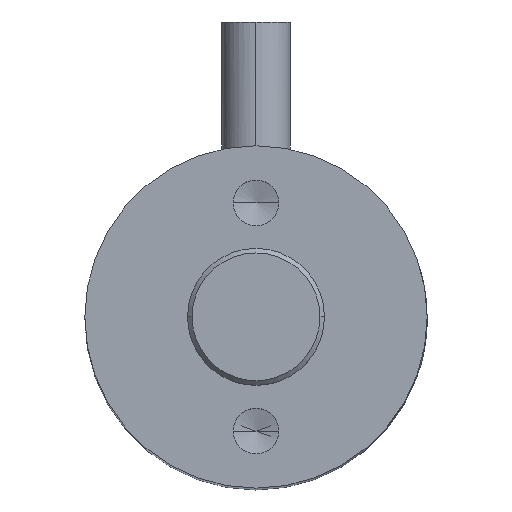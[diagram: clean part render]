
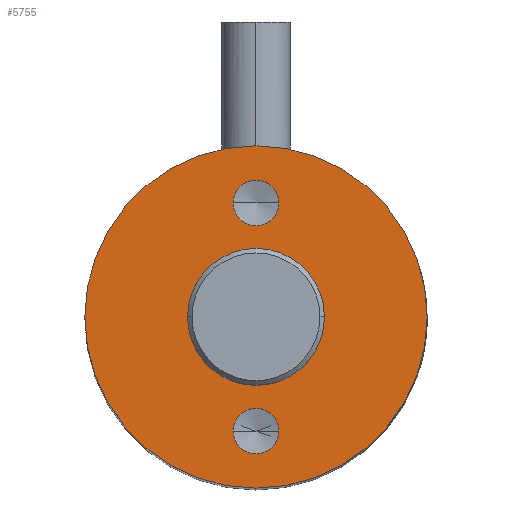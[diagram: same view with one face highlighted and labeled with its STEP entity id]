
A CAD part, top view. The second image highlights one B-rep face of the part: STEP entity #5755.
In plain terms, the highlighted planar face has unit normal (0, 0, 1).
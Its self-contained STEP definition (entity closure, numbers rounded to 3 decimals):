
#637 = DIRECTION ( 'NONE',  ( 1., 0., 0. ) ) ;
#718 = CARTESIAN_POINT ( 'NONE',  ( -7.5, 0., 46.5 ) ) ;
#787 = EDGE_CURVE ( 'NONE', #22410, #32819, #18321, .T. ) ;
#1457 = CARTESIAN_POINT ( 'NONE',  ( -3., 0., 46.5 ) ) ;
#1897 = ORIENTED_EDGE ( 'NONE', *, *, #787, .T. ) ;
#2202 = FACE_BOUND ( 'NONE', #4466, .T. ) ;
#2818 = DIRECTION ( 'NONE',  ( 1., 0., 0. ) ) ;
#3547 = EDGE_CURVE ( 'NONE', #32819, #22410, #28968, .T. ) ;
#4136 = AXIS2_PLACEMENT_3D ( 'NONE', #20418, #17104, #2818 ) ;
#4466 = EDGE_LOOP ( 'NONE', ( #33394, #25074 ) ) ;
#4543 = CARTESIAN_POINT ( 'NONE',  ( -1., 5., 46.5 ) ) ;
#4619 = VERTEX_POINT ( 'NONE', #9937 ) ;
#4689 = EDGE_LOOP ( 'NONE', ( #20388, #36395 ) ) ;
#5076 = VERTEX_POINT ( 'NONE', #34888 ) ;
#5505 = CARTESIAN_POINT ( 'NONE',  ( 0., 0., 46.5 ) ) ;
#5755 = ADVANCED_FACE ( 'NONE', ( #2202, #38163, #27602, #17425 ), #32049, .T. ) ;
#7295 = AXIS2_PLACEMENT_3D ( 'NONE', #13007, #7461, #30868 ) ;
#7461 = DIRECTION ( 'NONE',  ( 0., 0., 1. ) ) ;
#7899 = CIRCLE ( 'NONE', #11570, 1. ) ;
#8372 = ORIENTED_EDGE ( 'NONE', *, *, #27332, .F. ) ;
#8786 = VERTEX_POINT ( 'NONE', #1457 ) ;
#9377 = CARTESIAN_POINT ( 'NONE',  ( 7.5, 0., 46.5 ) ) ;
#9937 = CARTESIAN_POINT ( 'NONE',  ( 3., 0., 46.5 ) ) ;
#11570 = AXIS2_PLACEMENT_3D ( 'NONE', #17140, #31920, #37737 ) ;
#11611 = CARTESIAN_POINT ( 'NONE',  ( 0., 0., 46.5 ) ) ;
#13007 = CARTESIAN_POINT ( 'NONE',  ( 0., -5., 46.5 ) ) ;
#13487 = DIRECTION ( 'NONE',  ( 1., 0., 0. ) ) ;
#14524 = EDGE_LOOP ( 'NONE', ( #8372, #37503 ) ) ;
#14542 = DIRECTION ( 'NONE',  ( 0., 0., 1. ) ) ;
#14543 = EDGE_CURVE ( 'NONE', #18544, #5076, #30220, .T. ) ;
#15412 = EDGE_CURVE ( 'NONE', #4619, #8786, #16396, .T. ) ;
#16149 = AXIS2_PLACEMENT_3D ( 'NONE', #34320, #25458, #13487 ) ;
#16327 = CIRCLE ( 'NONE', #23992, 1. ) ;
#16396 = CIRCLE ( 'NONE', #31393, 3. ) ;
#17104 = DIRECTION ( 'NONE',  ( 0., 0., 1. ) ) ;
#17140 = CARTESIAN_POINT ( 'NONE',  ( 0., 5., 46.5 ) ) ;
#17425 = FACE_OUTER_BOUND ( 'NONE', #20347, .T. ) ;
#17556 = DIRECTION ( 'NONE',  ( 1., 0., 0. ) ) ;
#17923 = AXIS2_PLACEMENT_3D ( 'NONE', #11611, #14542, #35276 ) ;
#18321 = CIRCLE ( 'NONE', #33329, 7.5 ) ;
#18544 = VERTEX_POINT ( 'NONE', #22152 ) ;
#20347 = EDGE_LOOP ( 'NONE', ( #1897, #32875 ) ) ;
#20388 = ORIENTED_EDGE ( 'NONE', *, *, #36517, .F. ) ;
#20418 = CARTESIAN_POINT ( 'NONE',  ( 0., 0., 46.5 ) ) ;
#22152 = CARTESIAN_POINT ( 'NONE',  ( 1., -5., 46.5 ) ) ;
#22410 = VERTEX_POINT ( 'NONE', #718 ) ;
#22745 = EDGE_CURVE ( 'NONE', #37881, #26681, #16327, .T. ) ;
#23825 = CARTESIAN_POINT ( 'NONE',  ( 0., 5., 46.5 ) ) ;
#23992 = AXIS2_PLACEMENT_3D ( 'NONE', #23825, #29633, #32941 ) ;
#25074 = ORIENTED_EDGE ( 'NONE', *, *, #33079, .F. ) ;
#25458 = DIRECTION ( 'NONE',  ( 0., 0., 1. ) ) ;
#26200 = CARTESIAN_POINT ( 'NONE',  ( 0., 0., 46.5 ) ) ;
#26345 = CIRCLE ( 'NONE', #7295, 1. ) ;
#26681 = VERTEX_POINT ( 'NONE', #35430 ) ;
#27332 = EDGE_CURVE ( 'NONE', #8786, #4619, #35614, .T. ) ;
#27602 = FACE_BOUND ( 'NONE', #14524, .T. ) ;
#28968 = CIRCLE ( 'NONE', #4136, 7.5 ) ;
#29633 = DIRECTION ( 'NONE',  ( 0., 0., 1. ) ) ;
#29987 = CARTESIAN_POINT ( 'NONE',  ( 0., -5., 46.5 ) ) ;
#30220 = CIRCLE ( 'NONE', #33527, 1. ) ;
#30868 = DIRECTION ( 'NONE',  ( 1., 0., 0. ) ) ;
#31393 = AXIS2_PLACEMENT_3D ( 'NONE', #5505, #34949, #37678 ) ;
#31920 = DIRECTION ( 'NONE',  ( 0., 0., 1. ) ) ;
#32049 = PLANE ( 'NONE',  #17923 ) ;
#32819 = VERTEX_POINT ( 'NONE', #9377 ) ;
#32875 = ORIENTED_EDGE ( 'NONE', *, *, #3547, .T. ) ;
#32941 = DIRECTION ( 'NONE',  ( 1., 0., 0. ) ) ;
#33079 = EDGE_CURVE ( 'NONE', #5076, #18544, #26345, .T. ) ;
#33329 = AXIS2_PLACEMENT_3D ( 'NONE', #26200, #35311, #17556 ) ;
#33394 = ORIENTED_EDGE ( 'NONE', *, *, #14543, .F. ) ;
#33527 = AXIS2_PLACEMENT_3D ( 'NONE', #29987, #35906, #637 ) ;
#34320 = CARTESIAN_POINT ( 'NONE',  ( 0., 0., 46.5 ) ) ;
#34888 = CARTESIAN_POINT ( 'NONE',  ( -1., -5., 46.5 ) ) ;
#34949 = DIRECTION ( 'NONE',  ( 0., 0., 1. ) ) ;
#35276 = DIRECTION ( 'NONE',  ( 1., 0., 0. ) ) ;
#35311 = DIRECTION ( 'NONE',  ( 0., 0., 1. ) ) ;
#35430 = CARTESIAN_POINT ( 'NONE',  ( 1., 5., 46.5 ) ) ;
#35614 = CIRCLE ( 'NONE', #16149, 3. ) ;
#35906 = DIRECTION ( 'NONE',  ( 0., 0., 1. ) ) ;
#36395 = ORIENTED_EDGE ( 'NONE', *, *, #22745, .F. ) ;
#36517 = EDGE_CURVE ( 'NONE', #26681, #37881, #7899, .T. ) ;
#37503 = ORIENTED_EDGE ( 'NONE', *, *, #15412, .F. ) ;
#37678 = DIRECTION ( 'NONE',  ( 1., 0., 0. ) ) ;
#37737 = DIRECTION ( 'NONE',  ( 1., 0., 0. ) ) ;
#37881 = VERTEX_POINT ( 'NONE', #4543 ) ;
#38163 = FACE_BOUND ( 'NONE', #4689, .T. ) ;
